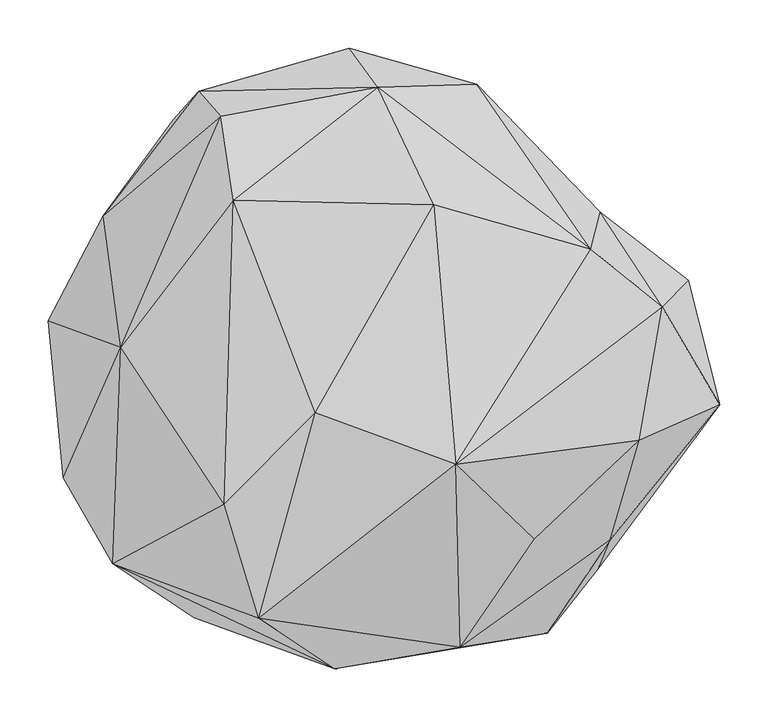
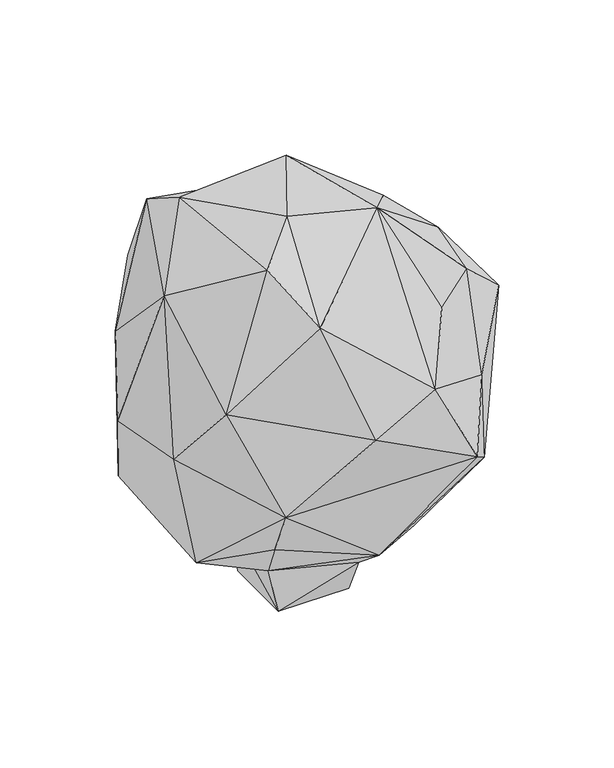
"""IFC4 building model written with IfcOpenShell, lengths in millimetres: geographic element geometry, Enscape AssetDefinition - Bush 132 Rose of Sharon : Enscape AssetDefinition - Bush 132 Rose of Sharon 2."""

from ifc_helpers import new_model, si_unit, origin, place, context, project, spatial, triangles, source, transform, mapped, element, save


def geographic_element_6bb354fd(model_context):
    return source(origin(), model_context, "Body", "Tessellation", [
        triangles([(81.6566073, -64.942802, -15.7836739), (87.3547425, -88.9554623, 49.9700422), (-56.70139, -64.942802, -15.7836739), (-56.70139, 73.4151909, -15.7836739), (-258.449904, 130.3748727, 217.7314774), (-50.7455626, 103.3166224, 52.8982837), (12.0867429, 192.0690539, 107.2470148), (-160.6693535, 221.393663, 256.8976187), (-81.3647829, -74.3062066, 82.8779445), (-158.9146278, -229.4587412, 247.4398202), (-199.5976278, -33.531924, 116.3142484), (30.598716, -257.6538952, 187.0483212), (-301.3762628, -133.5223096, 427.2811867), (-165.165409, -278.7768064, 346.5043948), (-241.8062615, 1.8192825, 664.572662), (-260.1002757, 138.0978297, 514.0634259), (-317.0928906, 29.5437817, 413.8669255), (-250.0259451, -222.8105641, 555.5840747), (-134.2015741, -161.3517428, 778.2437033), (-124.680471, 154.6228658, 735.3111494), (25.3085183, 271.6319119, 634.1454494), (-160.9593249, 267.3687455, 558.7762127), (-137.9991076, 241.6137587, 684.4190523), (-4.346409, 312.3112058, 470.5173557), (246.4289626, 103.3246979, 640.0230703), (106.3429639, -119.8646494, 798.5639746), (83.4106881, 149.8461679, 752.0721176), (-39.5405234, -66.2765232, 800.0000788), (187.6406723, -197.341243, 609.5081088), (-98.5150714, -279.551087, 717.2946619), (110.6130157, -309.8505275, 535.6750428), (127.9812507, 275.0252367, 509.3456906), (380.2909226, -57.7153407, 504.3132216), (347.3997617, 71.6288219, 471.9404883), (320.6246518, 43.7497097, 583.6780357), (296.4114314, -94.7417825, 590.3944499), (-19.2943301, -331.7297516, 488.8250682), (200.9376078, -295.3434551, 354.7893179), (266.4106463, -197.8119083, 443.6553689), (261.060228, 0.0651961, 224.8912511), (255.9215155, 141.9139758, 519.800067), (182.8385127, 162.2533048, 173.3329338), (253.6899293, -228.5552898, 294.4716878), (306.0033422, 9.8750411, 148.7067934), (172.8001719, -131.1646864, 123.5007284), (73.1562723, 234.2428787, 172.4083717), (81.6566073, 73.4151909, -15.7836739), (-187.0899247, 237.8267987, 462.7422489)], [[45, 12, 2], [22, 48, 16], [5, 16, 48], [48, 8, 5], [22, 24, 48], [24, 8, 48], [8, 24, 7], [7, 24, 46], [46, 24, 32], [47, 7, 46], [42, 32, 41], [42, 46, 32], [46, 42, 47], [44, 45, 2], [47, 42, 44], [44, 2, 47], [38, 12, 43], [45, 43, 12], [43, 45, 44], [44, 42, 40], [44, 40, 43], [40, 42, 41], [40, 41, 34], [33, 40, 34], [40, 33, 43], [39, 38, 43], [39, 43, 33], [38, 39, 31], [31, 30, 37], [38, 31, 37], [39, 29, 31], [39, 33, 36], [36, 29, 39], [36, 33, 35], [34, 41, 35], [33, 34, 35], [35, 41, 25], [32, 25, 41], [29, 26, 31], [26, 35, 25], [26, 36, 35], [30, 31, 26], [29, 36, 26], [26, 28, 30], [27, 28, 26], [25, 27, 26], [25, 21, 27], [21, 32, 24], [21, 24, 22], [32, 21, 25], [22, 16, 23], [22, 23, 21], [20, 21, 23], [27, 21, 20], [27, 20, 28], [30, 28, 19], [28, 20, 19], [30, 19, 18], [37, 30, 18], [15, 20, 23], [23, 16, 15], [15, 19, 20], [18, 19, 15], [17, 16, 5], [15, 16, 17], [18, 15, 13], [15, 17, 13], [13, 14, 18], [38, 37, 14], [37, 18, 14], [12, 38, 14], [13, 11, 14], [17, 11, 13], [5, 11, 17], [14, 10, 12], [14, 11, 10], [9, 10, 11], [2, 12, 9], [10, 9, 12], [9, 11, 6], [5, 8, 6], [6, 8, 7], [47, 6, 7], [5, 6, 11], [6, 47, 4], [3, 2, 9], [9, 6, 3], [4, 3, 6], [3, 4, 47], [1, 3, 47], [47, 2, 1], [1, 2, 3]]),
    ])


if __name__ == "__main__":
    model = new_model("IFC4")
    model_context = context("Model", 3, world=origin())
    ifc_project = project(units=[si_unit("LENGTHUNIT", "METRE", prefix="MILLI")], contexts=[model_context])
    site = spatial("IfcSite", under=ifc_project)
    building = spatial("IfcBuilding", under=site)
    placement = place(None, origin())
    geographic_element_shape = geographic_element_6bb354fd(model_context)
    element("IfcGeographicElement", 1, ObjectType="Enscape AssetDefinition - Bush 132 Rose of Sharon : Enscape AssetDefinition - Bush 132 Rose of Sharon 2", at=placement, inside=building, context=model_context, shape_type="MappedRepresentation", body=[
        mapped(geographic_element_shape, transform((0.0, 0.0, 0.0), x_axis=(1.0, 0.0, 0.0), y_axis=(0.0, 1.0, 0.0), z_axis=(0.0, 0.0, 1.0))),
    ])
    save(model, "model.ifc")
